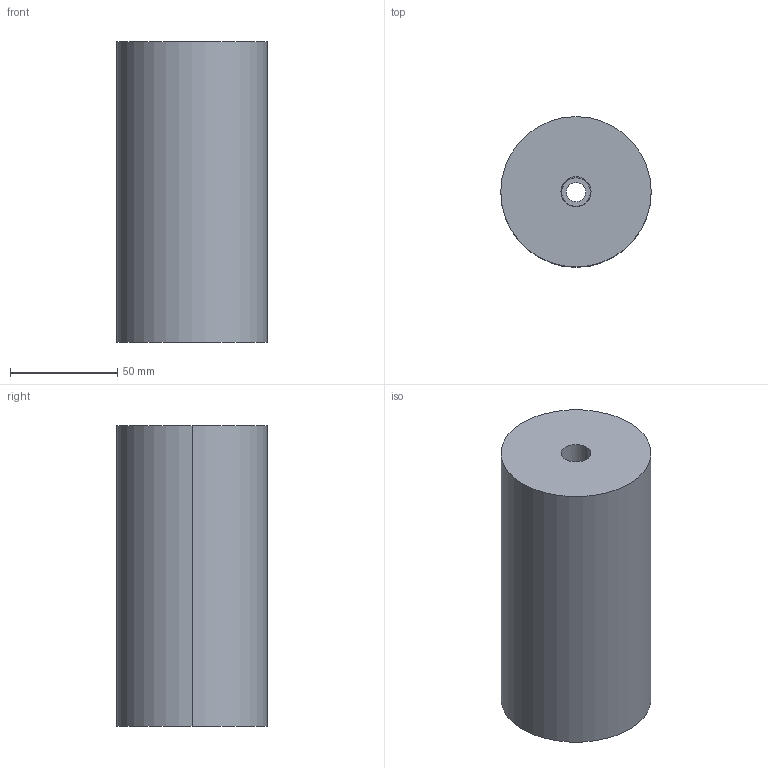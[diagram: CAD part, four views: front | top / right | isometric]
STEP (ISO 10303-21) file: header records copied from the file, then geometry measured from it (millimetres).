
FILE_DESCRIPTION(/* description */ (''),/* implementation_level */ '2;1');
FILE_NAME(/* name */ '3d_est70-140_07019_r00.stp',/* time_stamp */ '2011-01-10T14:15:39+09:00',/* author */ ('MISUMI'),/* organization */ (''),/* preprocessor_version */ 'ST-DEVELOPER v11',/* originating_system */ 'UGS - NX 5.0',/* authorisation */ '');
FILE_SCHEMA (('CONFIG_CONTROL_DESIGN'));
Length unit declared in the file: millimetre
Products named in the file (1): 3d_est70-140_07019_r00
Bounding box: 70 x 70 x 140 mm (x, y, z)
Volume: 521172.1 mm3; surface area: 46954.1 mm2
Topology: 2 solids, 2 shells, 19 faces, 38 edges, 24 vertices
Faces by surface type: cylinder 10, plane 5, cone 4
Entity records: 596 total; most frequent: DIRECTION 102, CARTESIAN_POINT 82, ORIENTED_EDGE 76, AXIS2_PLACEMENT_3D 44, EDGE_CURVE 38, EDGE_LOOP 24, VERTEX_POINT 24, CIRCLE 24
